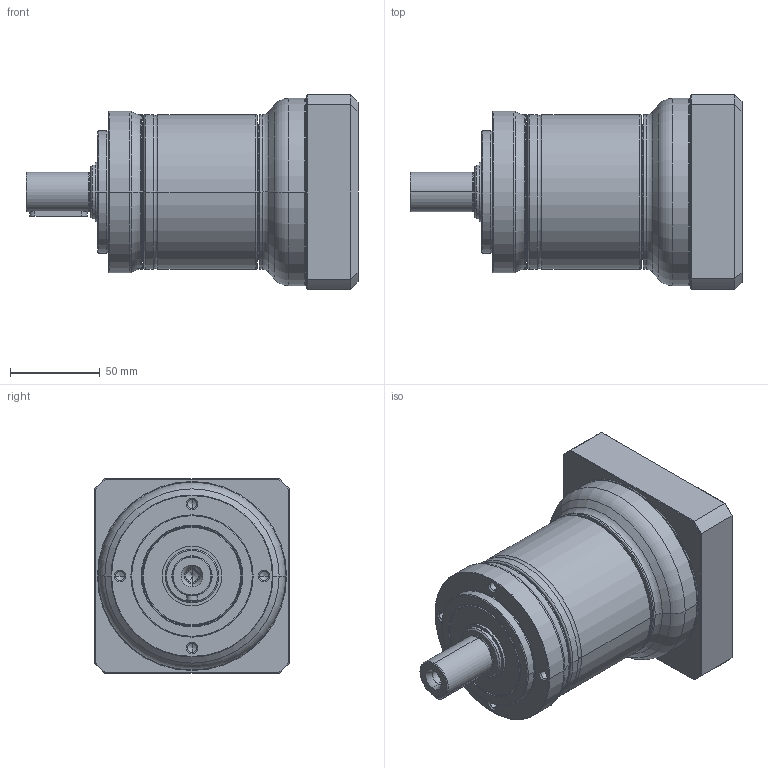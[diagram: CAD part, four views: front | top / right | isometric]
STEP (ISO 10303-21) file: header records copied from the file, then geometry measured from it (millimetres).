
FILE_DESCRIPTION((''),'2;1');
FILE_NAME('PE2-090_2ST_28-P0411600101_ASM','2017-06-03T',('d01943'),(''),'PRO/ENGINEER BY PARAMETRIC TECHNOLOGY CORPORATION, 2008410','PRO/ENGINEER BY PARAMETRIC TECHNOLOGY CORPORATION, 2008410','');
FILE_SCHEMA(('CONFIG_CONTROL_DESIGN'));
Length unit declared in the file: millimetre
Products named in the file (9): P1323310001; P0251300001; P1324300301; P0350301001; P0941303001; P0503600008; P0411600101; P1702500001; PE2-090_2ST_28-P0411600101_ASM
Assembly tree (8 placements, depth 2):
  PE2-090_2ST_28-P0411600101_ASM
    P1323310001
    P0251300001
    P1324300301
    P0350301001
    P0941303001
    P0503600008
    P0411600101
    P1702500001
Bounding box: 184.5 x 108 x 108 mm (x, y, z)
Volume: 693699.1 mm3; surface area: 165075 mm2
Topology: 8 solids, 8 shells, 472 faces, 1033 edges, 592 vertices
Faces by surface type: cone 138, cylinder 138, torus 102, plane 78, bspline 16
Entity records: 17500 total; most frequent: CARTESIAN_POINT 6917, DIRECTION 2417, ORIENTED_EDGE 2002, AXIS2_PLACEMENT_3D 1040, EDGE_CURVE 1001, VERTEX_POINT 592, CIRCLE 567, EDGE_LOOP 535
